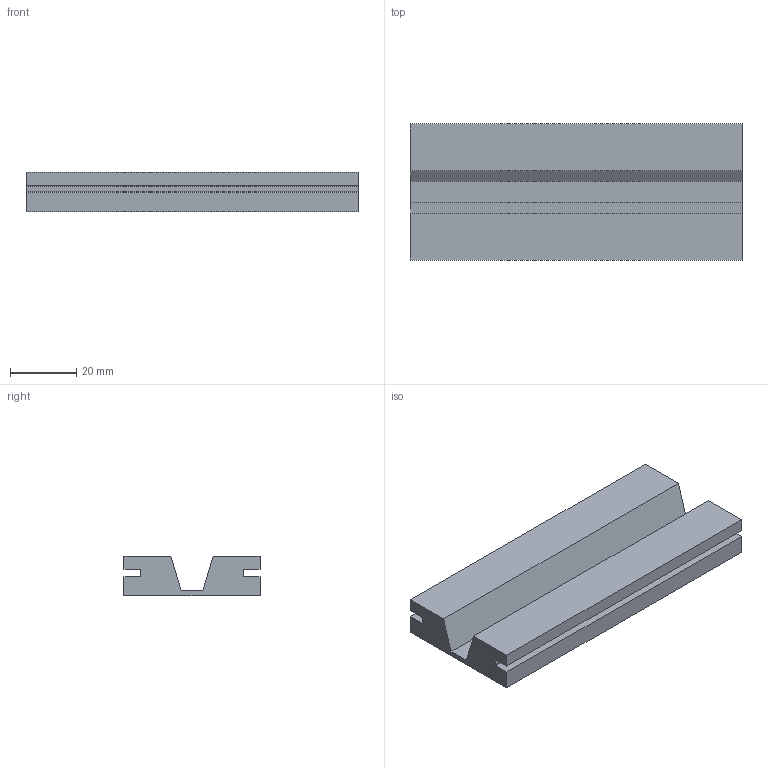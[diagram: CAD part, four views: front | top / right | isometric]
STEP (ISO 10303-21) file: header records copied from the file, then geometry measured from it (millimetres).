
FILE_DESCRIPTION (( 'STEP AP203' ), '1' );
FILE_NAME ('084.514.007.STEP', '2013-01-29T12:27:40', ( 'Alusic' ), ( 'Alusic' ), 'SwSTEP 2.0', 'SolidWorks 2011', '' );
FILE_SCHEMA (( 'CONFIG_CONTROL_DESIGN' ));
Length unit declared in the file: millimetre
Products named in the file (1): 084.514.007
Bounding box: 100 x 41 x 12 mm (x, y, z)
Volume: 36912.7 mm3; surface area: 14872.1 mm2
Topology: 1 solids, 1 shells, 22 faces, 60 edges, 40 vertices
Faces by surface type: plane 18, cylinder 4
Entity records: 769 total; most frequent: CARTESIAN_POINT 123, ORIENTED_EDGE 120, DIRECTION 114, EDGE_CURVE 60, LINE 52, VECTOR 52, VERTEX_POINT 40, AXIS2_PLACEMENT_3D 31
